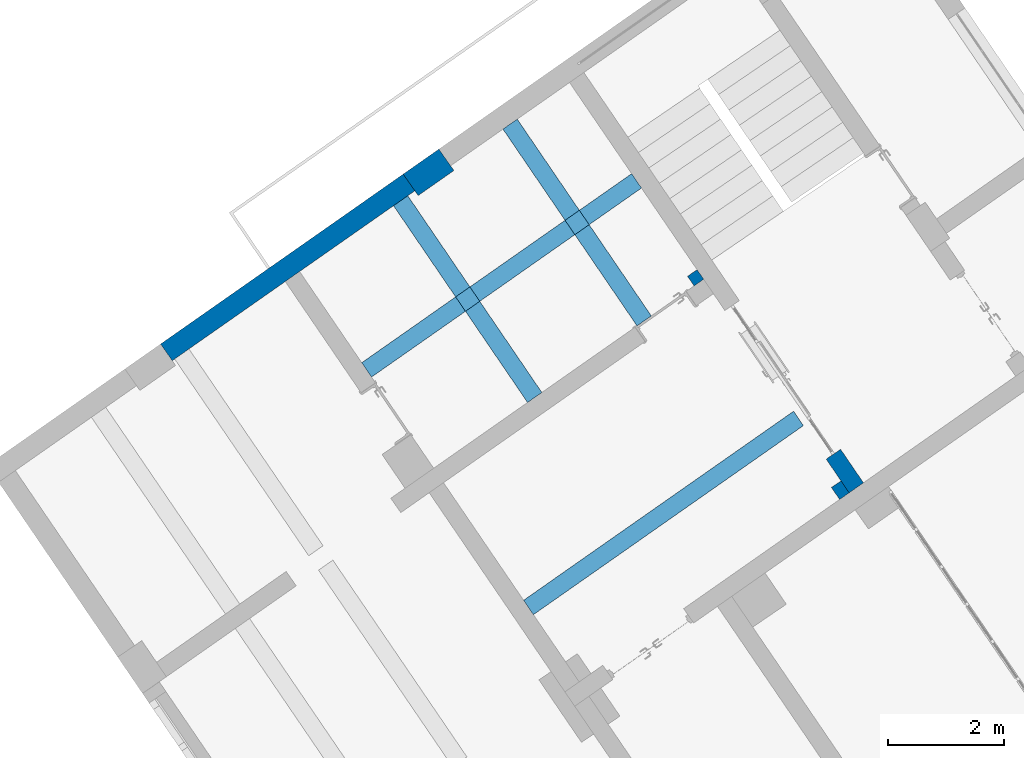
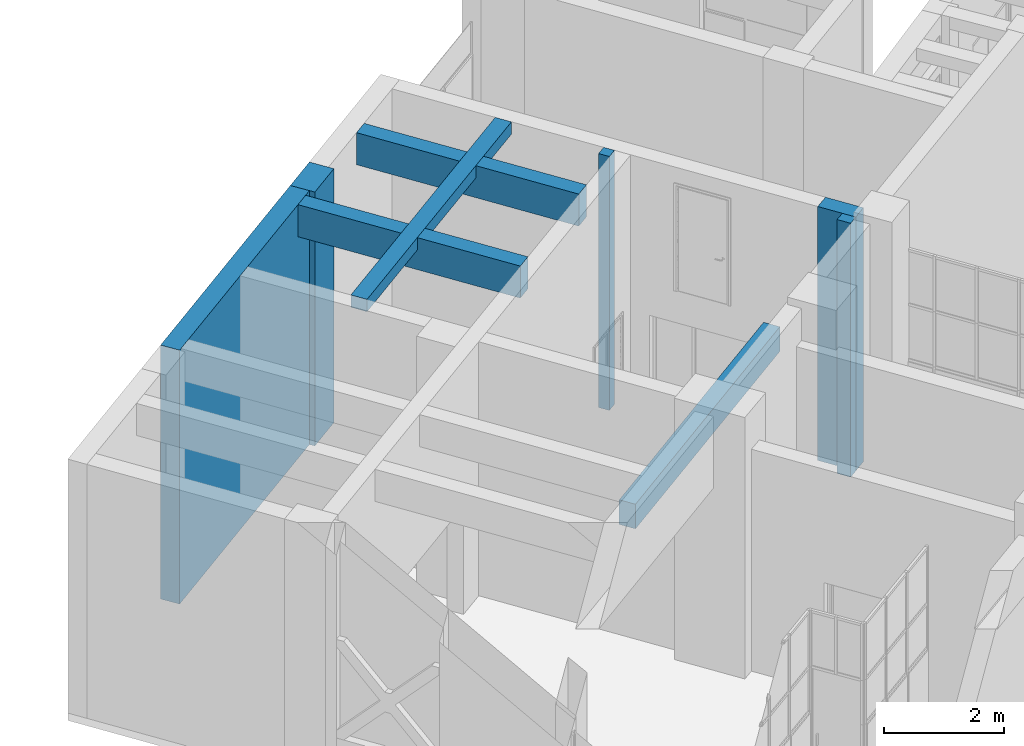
# One storey, part 95 of 157: 9 walls.
"""IFC2X3 building model written with IfcOpenShell, lengths in millimetres."""

from ifc_helpers import new_model, entity, si_unit, converted_unit, derived_unit, direction, frame, frame_2d, origin, place, context, subcontext, project, spatial, polyline, rectangle, outline, extrude, clip, bounded_halfspace, material, layer, layer_set, layer_usage, type_object, element, save


model = new_model("IFC2X3")

# Units and contexts
model_context = context("Model", 3, precision=0.01, world=origin(), true_north=direction((6.123031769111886e-17, 1.0)))
body_context = subcontext(model_context, "Body", "Model", "MODEL_VIEW")
ifc_project = project(units=[si_unit("LENGTHUNIT", "METRE", prefix="MILLI"), si_unit("AREAUNIT", "SQUARE_METRE"), si_unit("VOLUMEUNIT", "CUBIC_METRE"), converted_unit("PLANEANGLEUNIT", "DEGREE", entity("IfcRatioMeasure", 0.017453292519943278), si_unit("PLANEANGLEUNIT", "RADIAN"), dimensions=[0, 0, 0, 0, 0, 0, 0]), si_unit("MASSUNIT", "GRAM", prefix="KILO"), derived_unit("MASSDENSITYUNIT", [(si_unit("MASSUNIT", "GRAM", prefix="KILO"), 1), (si_unit("LENGTHUNIT", "METRE"), -3)]), derived_unit("MOMENTOFINERTIAUNIT", [(si_unit("LENGTHUNIT", "METRE"), 4)]), si_unit("TIMEUNIT", "SECOND"), si_unit("FREQUENCYUNIT", "HERTZ"), si_unit("THERMODYNAMICTEMPERATUREUNIT", "DEGREE_CELSIUS"), derived_unit("THERMALTRANSMITTANCEUNIT", [(si_unit("MASSUNIT", "GRAM", prefix="KILO"), 1), (si_unit("THERMODYNAMICTEMPERATUREUNIT", "KELVIN"), -1), (si_unit("TIMEUNIT", "SECOND"), -3)]), derived_unit("THERMALCONDUCTANCEUNIT", [(si_unit("MASSUNIT", "GRAM", prefix="KILO"), 1), (si_unit("LENGTHUNIT", "METRE"), 1), (si_unit("THERMODYNAMICTEMPERATUREUNIT", "KELVIN"), -1), (si_unit("TIMEUNIT", "SECOND"), -3)]), derived_unit("VOLUMETRICFLOWRATEUNIT", [(si_unit("LENGTHUNIT", "METRE"), 3), (si_unit("TIMEUNIT", "SECOND"), -1)]), derived_unit("MASSFLOWRATEUNIT", [(si_unit("MASSUNIT", "GRAM", prefix="KILO"), 1), (si_unit("TIMEUNIT", "SECOND"), -1)]), derived_unit("ROTATIONALFREQUENCYUNIT", [(si_unit("TIMEUNIT", "SECOND"), -1)]), si_unit("ELECTRICCURRENTUNIT", "AMPERE"), si_unit("ELECTRICVOLTAGEUNIT", "VOLT"), si_unit("POWERUNIT", "WATT"), converted_unit("FORCEUNIT", "KIP", entity("IfcRatioMeasure", 2.088543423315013e-05), si_unit("FORCEUNIT", "NEWTON"), dimensions=[1, 1, -2, 0, 0, 0, 0]), si_unit("ILLUMINANCEUNIT", "LUX"), si_unit("LUMINOUSFLUXUNIT", "LUMEN"), si_unit("LUMINOUSINTENSITYUNIT", "CANDELA"), derived_unit("USERDEFINED", [(si_unit("MASSUNIT", "GRAM", prefix="KILO"), -1), (si_unit("LENGTHUNIT", "METRE"), -2), (si_unit("TIMEUNIT", "SECOND"), 3), (si_unit("LUMINOUSFLUXUNIT", "LUMEN"), 1)]), derived_unit("USERDEFINED", [(si_unit("MASSUNIT", "GRAM", prefix="KILO"), 1), (si_unit("LENGTHUNIT", "METRE"), 3), (si_unit("TIMEUNIT", "SECOND"), -3), (si_unit("ELECTRICCURRENTUNIT", "AMPERE"), -2)]), derived_unit("USERDEFINED", [(si_unit("LENGTHUNIT", "METRE"), 2), (si_unit("TIMEUNIT", "SECOND"), -2)]), derived_unit("SOUNDPOWERUNIT", [(si_unit("MASSUNIT", "GRAM", prefix="KILO"), 1), (si_unit("LENGTHUNIT", "METRE"), 2), (si_unit("TIMEUNIT", "SECOND"), -3)]), derived_unit("SOUNDPRESSUREUNIT", [(si_unit("MASSUNIT", "GRAM", prefix="KILO"), 1), (si_unit("LENGTHUNIT", "METRE"), -1), (si_unit("TIMEUNIT", "SECOND"), -2)]), derived_unit("LINEARVELOCITYUNIT", [(si_unit("LENGTHUNIT", "METRE"), 1), (si_unit("TIMEUNIT", "SECOND"), -1)]), si_unit("PRESSUREUNIT", "PASCAL"), derived_unit("USERDEFINED", [(si_unit("LENGTHUNIT", "METRE"), -2), (si_unit("MASSUNIT", "GRAM", prefix="KILO"), 1), (si_unit("TIMEUNIT", "SECOND"), -2)]), derived_unit("LINEARFORCEUNIT", [(si_unit("MASSUNIT", "GRAM", prefix="KILO"), 1), (si_unit("LENGTHUNIT", "METRE"), 1), (si_unit("TIMEUNIT", "SECOND"), -2), (si_unit("LENGTHUNIT", "METRE"), -1)]), derived_unit("PLANARFORCEUNIT", [(si_unit("MASSUNIT", "GRAM", prefix="KILO"), 1), (si_unit("LENGTHUNIT", "METRE"), 1), (si_unit("TIMEUNIT", "SECOND"), -2), (si_unit("LENGTHUNIT", "METRE"), -2)]), derived_unit("SPECIFICHEATCAPACITYUNIT", [(si_unit("LENGTHUNIT", "METRE"), 2), (si_unit("TIMEUNIT", "SECOND"), -2), (si_unit("THERMODYNAMICTEMPERATUREUNIT", "KELVIN"), -1)]), derived_unit("VAPORPERMEABILITYUNIT", [(si_unit("TIMEUNIT", "SECOND"), 1), (si_unit("LENGTHUNIT", "METRE"), -1)]), derived_unit("DYNAMICVISCOSITYUNIT", [(si_unit("MASSUNIT", "GRAM", prefix="KILO"), 1), (si_unit("LENGTHUNIT", "METRE"), -1), (si_unit("TIMEUNIT", "SECOND"), -1)]), derived_unit("THERMALEXPANSIONCOEFFICIENTUNIT", [(si_unit("THERMODYNAMICTEMPERATUREUNIT", "KELVIN"), -1)])], contexts=[model_context])

# Site, building, storey
site_placement = place(None, frame((0.0, 0.0, 0.0), z_axis=(0.0, 0.0, 1.0), x_axis=(0.8191520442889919, 0.5735764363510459, 0.0)))
site = spatial("IfcSite", under=ifc_project, at=site_placement, Name="Default", CompositionType="ELEMENT")
building_placement = place(site_placement, origin())
building = spatial("IfcBuilding", under=site, at=building_placement, CompositionType="ELEMENT")
storey_placement = place(building_placement, origin())
storey = spatial("IfcBuildingStorey", under=building, at=storey_placement, Name="1.EG +0.00", CompositionType="ELEMENT", Elevation=-4.331468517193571e-12)

# Walls
ifc_material = material(Name="Analytical Wall Surface_CJC")
ifc_layer_1 = layer(ifc_material, 350.0)
ifc_layer_set_1 = layer_set([ifc_layer_1], Name="Basic Wall:Wand_Aussen_35")
ifc_layer_usage_1 = layer_usage(ifc_layer_set_1, "AXIS2", "NEGATIVE", 175.0)
wall_type_1 = type_object("IfcWallType", Name="Basic Wall:Wand_Aussen_35", PredefinedType="STANDARD", material=ifc_layer_set_1)
wall_1_placement = place(storey_placement, frame((-218723.93844453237, 172846.35891435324, 0.0)))
element("IfcWallStandardCase", 1, at=wall_1_placement, inside=storey, type_object=wall_type_1, material=ifc_layer_usage_1, Name="Basic Wall:Wand_Aussen_35", ObjectType="Basic Wall:Wand_Aussen_35", context=body_context, shape_type="SweptSolid", body=[
    extrude(rectangle(XDim=5100.413258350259, YDim=350.0000000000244, at=frame_2d((2550.2066291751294, -9.677592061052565e-12), x_axis=(-1.0, 0.0))), origin(), (0.0, 0.0, 1.0), 5150.000000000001),
])
ifc_layer_2 = layer(ifc_material, 450.00000000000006)
ifc_layer_set_2 = layer_set([ifc_layer_2], Name="Basic Wall:Wand_Aussen_45")
ifc_layer_usage_2 = layer_usage(ifc_layer_set_2, "AXIS2", "POSITIVE", -225.00000000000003)
wall_type_2 = type_object("IfcWallType", Name="Basic Wall:Wand_Aussen_45", PredefinedType="STANDARD", material=ifc_layer_set_2)
wall_2_placement = place(storey_placement, frame((-212873.5251861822, 172796.35891435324, 0.0), z_axis=(0.0, 0.0, 1.0), x_axis=(-1.0, 0.0, 0.0)))
element("IfcWallStandardCase", 2, at=wall_2_placement, inside=storey, type_object=wall_type_2, material=ifc_layer_usage_2, Name="Basic Wall:Wand_Aussen_45", ObjectType="Basic Wall:Wand_Aussen_45", context=body_context, shape_type="SweptSolid", body=[
    extrude(rectangle(XDim=750.0000000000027, YDim=450.00000000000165, at=frame_2d((375.00000000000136, 4.263256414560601e-13), x_axis=(-1.0, 0.0))), origin(), (0.0, 0.0, 1.0), 5150.000000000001),
])
ifc_layer_3 = layer(ifc_material, 300.0)
ifc_layer_set_3 = layer_set([ifc_layer_3], Name="Basic Wall:Wand_Innen_30")
ifc_layer_usage_3 = layer_usage(ifc_layer_set_3, "AXIS2", "NEGATIVE", 150.0)
wall_type_3 = type_object("IfcWallType", Name="Basic Wall:Wand_Innen_30", PredefinedType="STANDARD", material=ifc_layer_set_3)
wall_3_placement = place(storey_placement, frame((-210330.84569507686, 164119.44947620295, 0.0), z_axis=(0.0, 0.0, 1.0), x_axis=(0.0127295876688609, 0.999918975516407, 0.0)))
element("IfcWallStandardCase", 3, at=wall_3_placement, inside=storey, type_object=wall_type_3, material=ifc_layer_usage_3, Name="Basic Wall:Wand_Innen_30", ObjectType="Basic Wall:Wand_Innen_30", context=body_context, shape_type="SweptSolid", body=[
    extrude(outline(polyline([(701.9663146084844, -150.0), (701.966314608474, 150.0), (0.0, 150.0), (3.8191857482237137, -150.0), (701.9663146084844, -150.0)])), origin(), (0.0, 0.0, 1.0), 5150.000000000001),
])
wall_4_placement = place(storey_placement, frame((-216138.2416130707, 165671.3589143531, 2000.0)))
element("IfcWallStandardCase", 4, at=wall_4_placement, inside=storey, type_object=wall_type_3, material=ifc_layer_usage_3, Name="Basic Wall:Wand_Innen_30", ObjectType="Basic Wall:Wand_Innen_30", context=body_context, shape_type="SweptSolid", body=[
    extrude(outline(polyline([(5675.230938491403, -150.0), (5679.050124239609, 150.0), (3.8191857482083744, 150.0), (0.0, -150.0), (5675.230938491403, -150.0)])), origin(), (0.0, 0.0, 1.0), 500.00000000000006),
])
wall_5_placement = place(storey_placement, frame((-210396.17492398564, 170621.35891435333, 4900.0), z_axis=(0.0, 0.0, 1.0), x_axis=(-1.0, 0.0, 0.0)))
element("IfcWallStandardCase", 5, at=wall_5_placement, inside=storey, type_object=wall_type_3, material=ifc_layer_usage_3, Name="Basic Wall:Wand_Innen_30", ObjectType="Basic Wall:Wand_Innen_30", context=body_context, shape_type="SweptSolid", body=[
    extrude(outline(polyline([(5675.230938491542, -150.0), (5679.050124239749, 150.0), (3704.131155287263, 150.0), (3404.106845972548, 150.0), (1403.9204745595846, 150.0), (1103.896165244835, 150.0), (3.8191857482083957, 150.0), (0.0, -150.0), (1100.0769794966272, -150.0), (1400.1012888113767, -150.0), (3400.28766022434, -150.0), (3700.311969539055, -150.0), (5675.230938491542, -150.0)])), origin(), (0.0, 0.0, 1.0), 249.9999999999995),
])
wall_6_placement = place(storey_placement, frame((-213974.50640935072, 168569.44947620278, 4500.0), z_axis=(0.0, 0.0, 1.0), x_axis=(0.01272958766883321, 0.9999189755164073, 0.0)))
element("IfcWallStandardCase", 6, at=wall_6_placement, inside=storey, type_object=wall_type_3, material=ifc_layer_usage_3, Name="Basic Wall:Wand_Innen_30", ObjectType="Basic Wall:Wand_Innen_30", context=body_context, shape_type="Clipping", body=[
    clip(extrude(outline(polyline([(4104.151413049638, -150.0), (4100.332227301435, 150.0), (0.0, 150.0), (3.81918574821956, -150.0), (4104.151413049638, -150.0)])), origin(), (0.0, 0.0, 1.0), 650.0000000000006), bounded_halfspace(frame((2203.9974540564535, -150.0, 400.0), z_axis=(0.0, 0.0, -1.0), x_axis=(-0.9999189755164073, -0.01272958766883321, 0.0)), True, frame((2203.9974540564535, -150.0, 400.0), z_axis=(0.0, 0.0, -1.0), x_axis=(-0.9999189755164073, -0.01272958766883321, 0.0)), polyline([(0.0, 0.0), (300.0, 3.819185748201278), (300.0, 303.84349506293), (0.0, 300.0243093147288), (0.0, 0.0)]))),
])
wall_7_placement = place(storey_placement, frame((-211674.29572862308, 168569.44947620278, 4500.0), z_axis=(0.0, 0.0, 1.0), x_axis=(0.01272958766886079, 0.999918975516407, 0.0)))
element("IfcWallStandardCase", 7, at=wall_7_placement, inside=storey, type_object=wall_type_3, material=ifc_layer_usage_3, Name="Basic Wall:Wand_Innen_30", ObjectType="Basic Wall:Wand_Innen_30", context=body_context, shape_type="Clipping", body=[
    clip(extrude(outline(polyline([(4104.1514130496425, -150.0), (4100.332227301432, 150.0), (0.0, 150.0), (3.8191857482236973, -150.0), (4104.1514130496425, -150.0)])), origin(), (0.0, 0.0, 1.0), 650.0000000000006), bounded_halfspace(frame((2203.9974540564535, -150.0, 400.0), z_axis=(0.0, 0.0, -1.0), x_axis=(-0.999918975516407, -0.01272958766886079, 0.0)), True, frame((2203.9974540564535, -150.0, 400.0), z_axis=(0.0, 0.0, -1.0), x_axis=(-0.999918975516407, -0.01272958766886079, 0.0)), polyline([(0.0, 0.0), (300.0, 3.819185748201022), (300.0, 303.8434950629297), (0.0, 300.0243093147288), (0.0, 0.0)]))),
])
ifc_layer_4 = layer(ifc_material, 200.0)
ifc_layer_set_4 = layer_set([ifc_layer_4], Name="Basic Wall:Wand_Innen_20")
ifc_layer_usage_4 = layer_usage(ifc_layer_set_4, "AXIS2", "NEGATIVE", 100.0)
wall_type_4 = type_object("IfcWallType", Name="Basic Wall:Wand_Innen_20", PredefinedType="STANDARD", material=ifc_layer_set_4)
wall_8_placement = place(storey_placement, frame((-210523.1146140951, 168570.63146964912, 0.0), z_axis=(0.0, 0.0, 1.0), x_axis=(0.007274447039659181, 0.9999735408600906, 0.0)))
element("IfcWallStandardCase", 8, at=wall_8_placement, inside=storey, type_object=wall_type_4, material=ifc_layer_usage_4, Name="Basic Wall:Wand_Innen_20", ObjectType="Basic Wall:Wand_Innen_20", context=body_context, shape_type="SweptSolid", body=[
    extrude(outline(polyline([(200.7327559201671, -100.0), (200.73275592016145, 100.0), (0.0, 100.0), (1.44710343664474, -98.92441853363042), (1.4549279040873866, -100.0), (200.7327559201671, -100.0)])), origin(), (0.0, 0.0, 1.0), 5150.000000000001),
])
wall_9_placement = place(storey_placement, frame((-210580.8679789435, 164120.0859555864, 0.0), z_axis=(0.0, 0.0, 1.0), x_axis=(0.012729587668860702, 0.999918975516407, 0.0)))
element("IfcWallStandardCase", 9, at=wall_9_placement, inside=storey, type_object=wall_type_4, material=ifc_layer_usage_4, Name="Basic Wall:Wand_Innen_20", ObjectType="Basic Wall:Wand_Innen_20", context=body_context, shape_type="SweptSolid", body=[
    extrude(outline(polyline([(251.29331967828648, -100.0), (251.2933196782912, 100.0), (0.0, 100.0), (2.546123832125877, -100.0), (251.29331967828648, -100.0)])), origin(), (0.0, 0.0, 1.0), 5150.000000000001),
])

save(model, "model.ifc")
